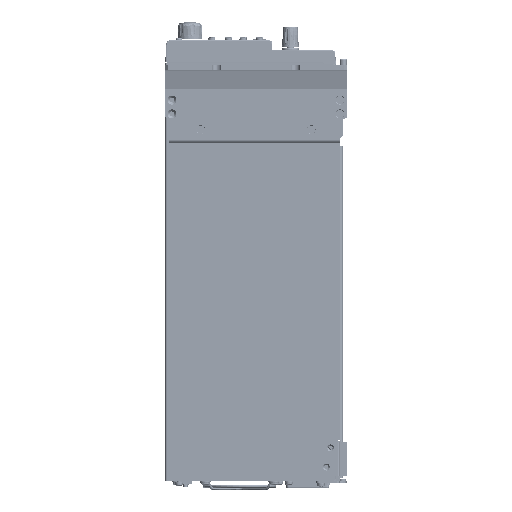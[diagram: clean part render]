
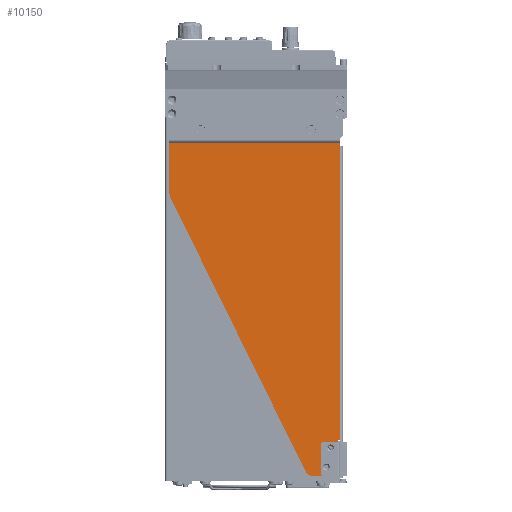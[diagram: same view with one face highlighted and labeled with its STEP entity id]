
A CAD part, left-side view. The second image highlights one B-rep face of the part: STEP entity #10150.
In plain terms, the highlighted planar face has unit normal (-1, 0, 0).
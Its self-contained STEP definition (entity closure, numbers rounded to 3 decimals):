
#9321=DIRECTION('',(0.,0.,-1.));
#9322=VECTOR('',#9321,213.6);
#9323=CARTESIAN_POINT('',(-217.,-60.8,-58.4));
#9324=LINE('',#9323,#9322);
#9335=DIRECTION('',(0.,0.,-1.));
#9336=VECTOR('',#9335,26.);
#9337=CARTESIAN_POINT('',(-217.,-59.5,-272.));
#9338=LINE('',#9337,#9336);
#9339=DIRECTION('',(0.,1.,0.));
#9340=VECTOR('',#9339,18.891);
#9341=CARTESIAN_POINT('',(-217.,-59.5,-298.));
#9342=LINE('',#9341,#9340);
#9343=CARTESIAN_POINT('',(-217.,-40.609,-293.));
#9344=DIRECTION('',(-1.,0.,0.));
#9345=DIRECTION('',(0.,0.897,-0.442));
#9346=AXIS2_PLACEMENT_3D('',#9343,#9344,#9345);
#9348=DIRECTION('',(0.,-0.442,-0.897));
#9349=VECTOR('',#9348,221.792);
#9350=CARTESIAN_POINT('',(-217.,61.969,-96.291));
#9351=LINE('',#9350,#9349);
#9352=CARTESIAN_POINT('',(-217.,53.,-91.868));
#9353=DIRECTION('',(-1.,0.,0.));
#9354=DIRECTION('',(0.,1.,0.));
#9355=AXIS2_PLACEMENT_3D('',#9352,#9353,#9354);
#9357=DIRECTION('',(0.,0.,-1.));
#9358=VECTOR('',#9357,35.468);
#9359=CARTESIAN_POINT('',(-217.,63.,-56.4));
#9360=LINE('',#9359,#9358);
#9361=DIRECTION('',(0.,0.,1.));
#9362=VECTOR('',#9361,2.);
#9363=CARTESIAN_POINT('',(-217.,-61.,-58.4));
#9364=LINE('',#9363,#9362);
#9365=DIRECTION('',(0.,-1.,0.));
#9366=VECTOR('',#9365,0.2);
#9367=CARTESIAN_POINT('',(-217.,-60.8,-58.4));
#9368=LINE('',#9367,#9366);
#9369=CARTESIAN_POINT('',(-217.,-54.1,-277.7));
#9370=DIRECTION('',(1.,0.,0.));
#9371=DIRECTION('',(0.,0.,1.));
#9372=AXIS2_PLACEMENT_3D('',#9369,#9370,#9371);
#9374=CARTESIAN_POINT('',(-217.,-54.1,-277.7));
#9375=DIRECTION('',(1.,0.,0.));
#9376=DIRECTION('',(0.,0.,-1.));
#9377=AXIS2_PLACEMENT_3D('',#9374,#9375,#9376);
#9379=CARTESIAN_POINT('',(-217.,-51.1,-291.7));
#9380=DIRECTION('',(1.,0.,0.));
#9381=DIRECTION('',(0.,0.,1.));
#9382=AXIS2_PLACEMENT_3D('',#9379,#9380,#9381);
#9384=CARTESIAN_POINT('',(-217.,-51.1,-291.7));
#9385=DIRECTION('',(1.,0.,0.));
#9386=DIRECTION('',(0.,0.,-1.));
#9387=AXIS2_PLACEMENT_3D('',#9384,#9385,#9386);
#9389=DIRECTION('',(0.,-1.,0.));
#9390=VECTOR('',#9389,1.3);
#9391=CARTESIAN_POINT('',(-217.,-59.5,-272.));
#9392=LINE('',#9391,#9390);
#9684=DIRECTION('',(0.,1.,0.));
#9685=VECTOR('',#9684,124.);
#9686=CARTESIAN_POINT('',(-217.,-61.,-56.4));
#9687=LINE('',#9686,#9685);
#9781=CARTESIAN_POINT('',(-217.,63.,-56.4));
#9782=VERTEX_POINT('',#9781);
#9783=CARTESIAN_POINT('',(-217.,-61.,-56.4));
#9784=VERTEX_POINT('',#9783);
#9845=CARTESIAN_POINT('',(-217.,63.,-91.868));
#9846=VERTEX_POINT('',#9845);
#9847=CARTESIAN_POINT('',(-217.,61.969,-96.291));
#9848=VERTEX_POINT('',#9847);
#9853=CARTESIAN_POINT('',(-217.,-36.125,-295.211));
#9854=VERTEX_POINT('',#9853);
#9855=CARTESIAN_POINT('',(-217.,-40.609,-298.));
#9856=VERTEX_POINT('',#9855);
#9861=CARTESIAN_POINT('',(-217.,-60.8,-58.4));
#9862=CARTESIAN_POINT('',(-217.,-61.,-58.4));
#9863=VERTEX_POINT('',#9861);
#9864=VERTEX_POINT('',#9862);
#9869=CARTESIAN_POINT('',(-217.,-60.8,-272.));
#9870=VERTEX_POINT('',#9869);
#9899=CARTESIAN_POINT('',(-217.,-59.5,-298.));
#9900=VERTEX_POINT('',#9899);
#9903=CARTESIAN_POINT('',(-217.,-59.5,-272.));
#9904=VERTEX_POINT('',#9903);
#9905=CARTESIAN_POINT('',(-217.,-51.1,-290.2));
#9906=CARTESIAN_POINT('',(-217.,-51.1,-293.2));
#9907=VERTEX_POINT('',#9905);
#9908=VERTEX_POINT('',#9906);
#9909=CARTESIAN_POINT('',(-217.,-54.1,-276.2));
#9910=CARTESIAN_POINT('',(-217.,-54.1,-279.2));
#9911=VERTEX_POINT('',#9909);
#9912=VERTEX_POINT('',#9910);
#10110=CARTESIAN_POINT('',(-217.,0.,0.));
#10111=DIRECTION('',(1.,0.,0.));
#10112=DIRECTION('',(0.,0.,-1.));
#10113=AXIS2_PLACEMENT_3D('',#10110,#10111,#10112);
#10114=PLANE('',#10113);
#10116=ORIENTED_EDGE('',*,*,#10115,.F.);
#10118=ORIENTED_EDGE('',*,*,#10117,.T.);
#10120=ORIENTED_EDGE('',*,*,#10119,.T.);
#10122=ORIENTED_EDGE('',*,*,#10121,.F.);
#10124=ORIENTED_EDGE('',*,*,#10123,.F.);
#10126=ORIENTED_EDGE('',*,*,#10125,.F.);
#10128=ORIENTED_EDGE('',*,*,#10127,.F.);
#10130=ORIENTED_EDGE('',*,*,#10129,.F.);
#10132=ORIENTED_EDGE('',*,*,#10131,.F.);
#10134=ORIENTED_EDGE('',*,*,#10133,.F.);
#10135=ORIENTED_EDGE('',*,*,#10101,.T.);
#10136=EDGE_LOOP('',(#10116,#10118,#10120,#10122,#10124,#10126,#10128,#10130,
#10132,#10134,#10135));
#10137=FACE_OUTER_BOUND('',#10136,.F.);
#10139=ORIENTED_EDGE('',*,*,#10138,.F.);
#10141=ORIENTED_EDGE('',*,*,#10140,.F.);
#10142=EDGE_LOOP('',(#10139,#10141));
#10143=FACE_BOUND('',#10142,.F.);
#10145=ORIENTED_EDGE('',*,*,#10144,.F.);
#10147=ORIENTED_EDGE('',*,*,#10146,.F.);
#10148=EDGE_LOOP('',(#10145,#10147));
#10149=FACE_BOUND('',#10148,.F.);
#10150=ADVANCED_FACE('',(#10137,#10143,#10149),#10114,.F.);
#9347=CIRCLE('',#9346,5.);
#9356=CIRCLE('',#9355,10.);
#9373=CIRCLE('',#9372,1.5);
#9378=CIRCLE('',#9377,1.5);
#9383=CIRCLE('',#9382,1.5);
#9388=CIRCLE('',#9387,1.5);
#10101=EDGE_CURVE('',#9863,#9870,#9324,.T.);
#10115=EDGE_CURVE('',#9904,#9870,#9392,.T.);
#10117=EDGE_CURVE('',#9904,#9900,#9338,.T.);
#10119=EDGE_CURVE('',#9900,#9856,#9342,.T.);
#10121=EDGE_CURVE('',#9854,#9856,#9347,.T.);
#10123=EDGE_CURVE('',#9848,#9854,#9351,.T.);
#10125=EDGE_CURVE('',#9846,#9848,#9356,.T.);
#10127=EDGE_CURVE('',#9782,#9846,#9360,.T.);
#10129=EDGE_CURVE('',#9784,#9782,#9687,.T.);
#10131=EDGE_CURVE('',#9864,#9784,#9364,.T.);
#10133=EDGE_CURVE('',#9863,#9864,#9368,.T.);
#10138=EDGE_CURVE('',#9911,#9912,#9373,.T.);
#10140=EDGE_CURVE('',#9912,#9911,#9378,.T.);
#10144=EDGE_CURVE('',#9907,#9908,#9383,.T.);
#10146=EDGE_CURVE('',#9908,#9907,#9388,.T.);
